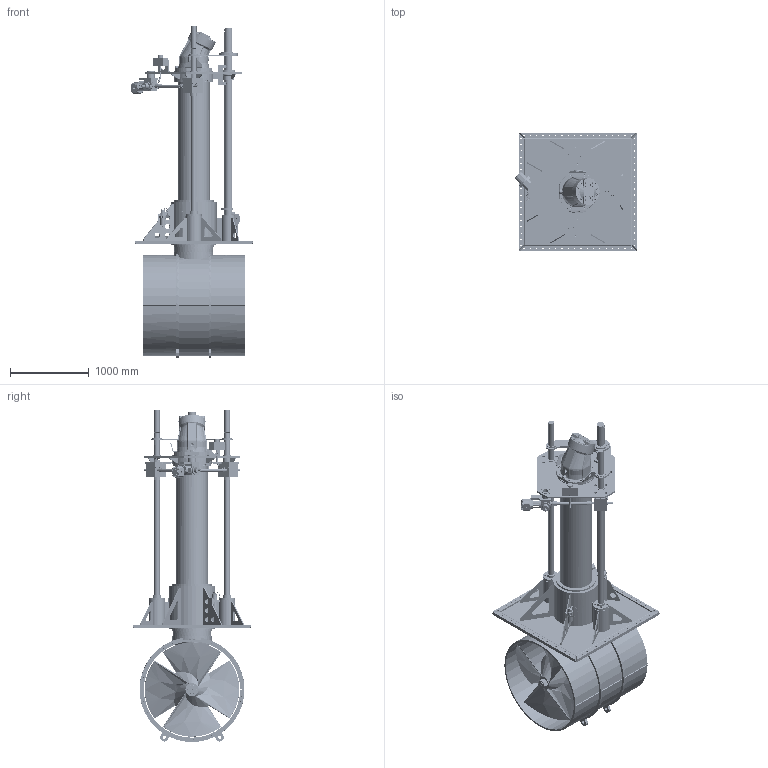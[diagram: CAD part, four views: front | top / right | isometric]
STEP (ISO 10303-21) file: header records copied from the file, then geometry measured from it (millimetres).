
FILE_DESCRIPTION(/* description */ (''),/* implementation_level */ '2;1');
FILE_NAME(/* name */ 'Q:\THRUSTERS\THRUSTER SALES & SUPPORT DOCS\THRUSTER Sales\H-V\H-1200-V\H-1200-V-RETRACTED.stp',/* time_stamp */ '2020-03-18T18:12:22+00:00',/* author */ ('charlotte.richardson'),/* organization */ (''),/* preprocessor_version */ 'ST-DEVELOPER v17',/* originating_system */ 'Autodesk Inventor 2019',/* authorisation */ '');
FILE_SCHEMA (('AUTOMOTIVE_DESIGN { 1 0 10303 214 3 1 1 }'));
Products named in the file (1): H-1200-V_Shrinkwrap_1
Bounding box: 1546.12 x 1501.98 x 4203.69 mm (x, y, z)
Volume: 640452974.7 mm3; surface area: 41955387.5 mm2
Topology: 12 solids, 12 shells, 4781 faces, 12521 edges, 8206 vertices
Faces by surface type: plane 2000, cylinder 1381, bspline 806, cone 384, torus 177, sphere 33
Full cylindrical faces by diameter (mm): 4.4 x2, 7.2 x2, 7.275 x1, 8 x5, 8.3 x2, 9 x5, 9.2 x1, 10.11 x16, 10.25 x55, 10.3 x26, 10.5 x36, 11 x22, 11.8 x2, 12 x2, 12.4 x10, 12.5 x38, 12.7 x1, 13 x16, 13.157 x1, 14 x4, 14.25 x1, 14.32 x2, 15.25 x6, 15.8 x13, 16 x13, 16.5 x8, 17 x118, 17.5 x24, 18 x12, 18.376 x2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
Entity records: 225016 total; most frequent: CARTESIAN_POINT 104572, ORIENTED_EDGE 24786, DIRECTION 22749, EDGE_CURVE 12393, AXIS2_PLACEMENT_3D 8644, VERTEX_POINT 8205, EDGE_LOOP 5830, LINE 5461
